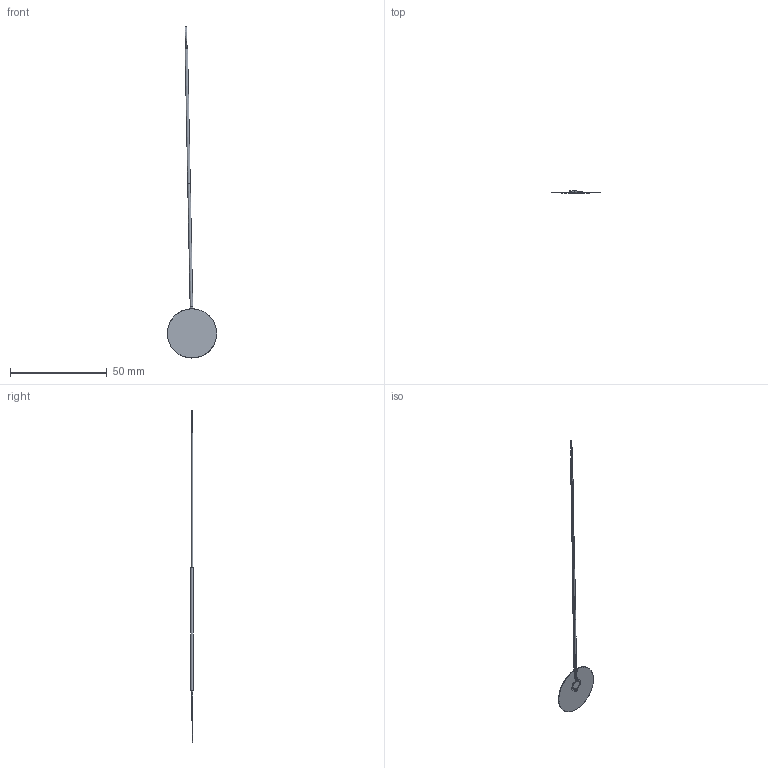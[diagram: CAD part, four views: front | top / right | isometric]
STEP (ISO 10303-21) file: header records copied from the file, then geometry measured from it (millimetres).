
FILE_DESCRIPTION(/* description */ (''),/* implementation_level */ '2;1');
FILE_NAME(/* name */ 'C:\Users\Justin\Documents\CAD Drawings\The Sensor Connection\3D\SSP\SSP-TC-072-XX-TF-K-N\SSP-TC-072-10-TF-K-N\SSP-TC-072-10-TF-K-N.stp',/* time_stamp */ '2018-02-08T12:52:01-05:00',/* author */ ('Justin'),/* organization */ (''),/* preprocessor_version */ 'ST-DEVELOPER v17',/* originating_system */ 'Autodesk Inventor 2018',/* authorisation */ '');
FILE_SCHEMA (('AUTOMOTIVE_DESIGN { 1 0 10303 214 3 1 1 }'));
Length unit declared in the file: inch
Products named in the file (5): SSP ASSEMBLY; Kapton Tape; Junction; Cabe Insulation; Fiberglass Back
Assembly tree (4 placements, depth 2):
  SSP ASSEMBLY
    Kapton Tape
    Junction
    Cabe Insulation
    Fiberglass Back
Bounding box: 25.4 x 1.35 x 171.57 mm (x, y, z)
Volume: 262.7 mm3; surface area: 4094.3 mm2
Topology: 12 solids, 12 shells, 105 faces, 235 edges, 154 vertices
Faces by surface type: plane 36, bspline 29, cylinder 25, torus 15
Full cylindrical faces by diameter (mm): 0.294 x2, 1.143 x1, 1.346 x1, 25.4 x2
Entity records: 6340 total; most frequent: CARTESIAN_POINT 3953, ORIENTED_EDGE 470, DIRECTION 383, EDGE_CURVE 235, AXIS2_PLACEMENT_3D 156, VERTEX_POINT 154, EDGE_LOOP 113, FACE_OUTER_BOUND 105
